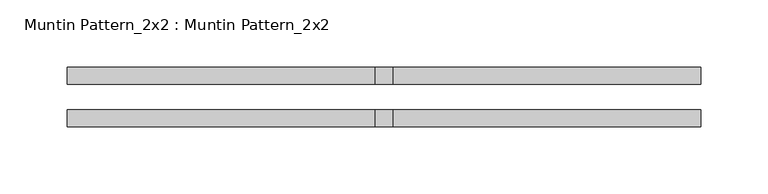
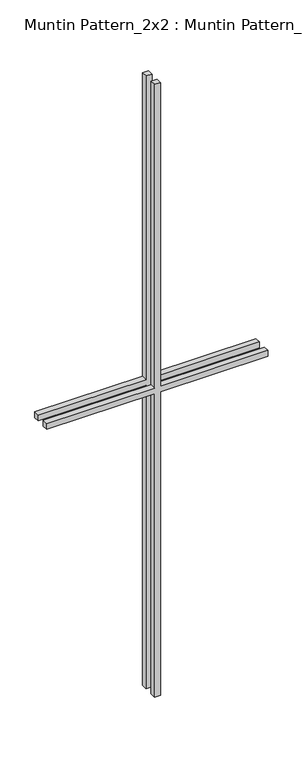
"""IFC4 building model written with IfcOpenShell, lengths in millimetres: proxy geometry, Muntin Pattern_2x2 : Muntin Pattern_2x2."""

from ifc_helpers import new_model, si_unit, frame, origin, place, context, project, spatial, polyline, outline, extrude, source, transform, mapped, element, save


def muntin_pattern_2x2_muntin_pattern_2x2_a30a3345(model_context):
    return source(origin(), model_context, "Body", "SweptSolid", [
        extrude(outline(polyline([(698.5, -6.35), (698.5, -236.5375), (685.8, -236.5375), (685.8, -6.35), (0.0, -6.35), (0.0, 6.35), (685.8, 6.35), (685.8, 236.5375), (698.5, 236.5375), (698.5, 6.35), (1384.3, 6.35), (1384.3, -6.35), (698.5, -6.35)])), frame((0.0, -22.225, 0.0), z_axis=(0.0, 1.0, 0.0), x_axis=(0.0, 0.0, 1.0)), (0.0, 0.0, 1.0), 12.7),
        extrude(outline(polyline([(698.5, -6.35), (698.5, -236.5375), (685.8, -236.5375), (685.8, -6.35), (0.0, -6.35), (0.0, 6.35), (685.8, 6.35), (685.8, 236.5375), (698.5, 236.5375), (698.5, 6.35), (1384.3, 6.35), (1384.3, -6.35), (698.5, -6.35)])), frame((0.0, 9.525, 0.0), z_axis=(0.0, 1.0, 0.0), x_axis=(0.0, 0.0, 1.0)), (0.0, 0.0, 1.0), 12.7),
    ])


if __name__ == "__main__":
    model = new_model("IFC4")
    model_context = context("Model", 3, world=origin())
    ifc_project = project(units=[si_unit("LENGTHUNIT", "METRE", prefix="MILLI")], contexts=[model_context])
    site = spatial("IfcSite", under=ifc_project)
    building = spatial("IfcBuilding", under=site)
    placement = place(None, origin())
    muntin_pattern_2x2_muntin_pattern_2x2_shape = muntin_pattern_2x2_muntin_pattern_2x2_a30a3345(model_context)
    element("IfcBuildingElementProxy", 1, Name="Muntin Pattern_2x2 : Muntin Pattern_2x2", ObjectType="Muntin Pattern_2x2 : Muntin Pattern_2x2", at=placement, inside=building, context=model_context, shape_type="MappedRepresentation", body=[
        mapped(muntin_pattern_2x2_muntin_pattern_2x2_shape, transform((0.0, 0.0, 0.0), x_axis=(1.0, 0.0, 0.0), y_axis=(0.0, 1.0, 0.0), z_axis=(0.0, 0.0, 1.0))),
    ])
    save(model, "model.ifc")
